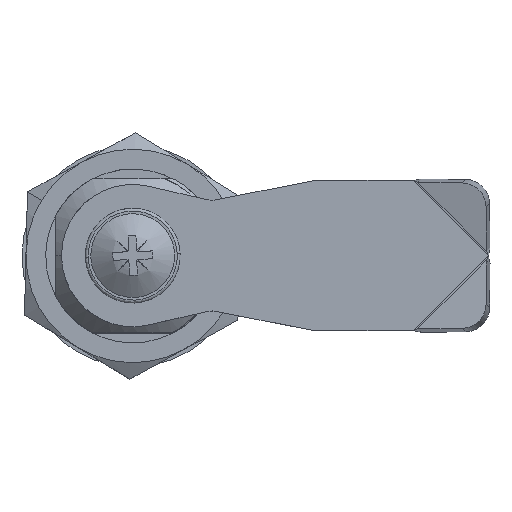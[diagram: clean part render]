
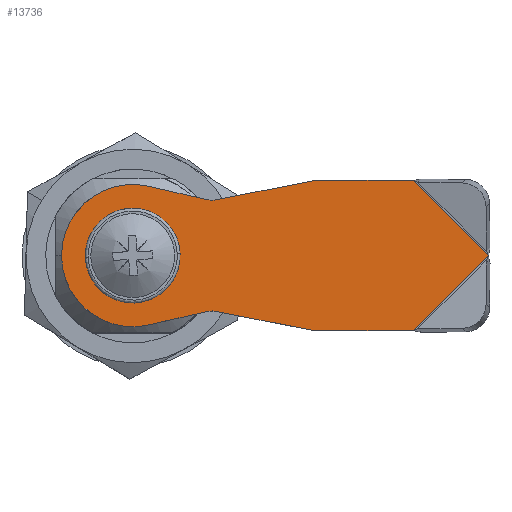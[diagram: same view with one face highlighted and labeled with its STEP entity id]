
A CAD part, top view. The second image highlights one B-rep face of the part: STEP entity #13736.
In plain terms, the highlighted planar face has unit normal (0, 0, 1).
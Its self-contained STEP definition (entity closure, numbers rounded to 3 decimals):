
#504 = AXIS2_PLACEMENT_3D ( 'NONE', #2250, #2259, #2260 ) ;
#957 = AXIS2_PLACEMENT_3D ( 'NONE', #9680, #9683, #9684 ) ;
#964 = AXIS2_PLACEMENT_3D ( 'NONE', #9780, #9783, #9784 ) ;
#966 = AXIS2_PLACEMENT_3D ( 'NONE', #9782, #9793, #9794 ) ;
#968 = AXIS2_PLACEMENT_3D ( 'NONE', #9807, #9812, #9813 ) ;
#1273 = CARTESIAN_POINT ( 'NONE',  ( 45., -0.005, 3. ) ) ;
#1998 = FACE_OUTER_BOUND ( 'NONE', #14514, .T. ) ;
#2011 = FACE_BOUND ( 'NONE', #14522, .T. ) ;
#2250 = CARTESIAN_POINT ( 'NONE',  ( 10., -9.5, 3. ) ) ;
#2251 = PLANE ( 'NONE',  #504 ) ;
#2259 = DIRECTION ( 'NONE',  ( 0., 0., -1. ) ) ;
#2260 = DIRECTION ( 'NONE',  ( -1., 0., 0. ) ) ;
#7223 = CARTESIAN_POINT ( 'NONE',  ( 10.481, -7.047, 3. ) ) ;
#7229 = CARTESIAN_POINT ( 'NONE',  ( 35.505, -9.5, 3. ) ) ;
#7234 = CARTESIAN_POINT ( 'NONE',  ( 9.44, -7.064, 3. ) ) ;
#7237 = CARTESIAN_POINT ( 'NONE',  ( 9.44, 7.064, 3. ) ) ;
#7238 = CARTESIAN_POINT ( 'NONE',  ( 10.481, 7.047, 3. ) ) ;
#7241 = CARTESIAN_POINT ( 'NONE',  ( 23., 9.5, 3. ) ) ;
#7249 = CARTESIAN_POINT ( 'NONE',  ( -9., 0., 3. ) ) ;
#7250 = CARTESIAN_POINT ( 'NONE',  ( 2.018, -8.771, 3. ) ) ;
#7260 = CARTESIAN_POINT ( 'NONE',  ( 45., 0.005, 3. ) ) ;
#7261 = CARTESIAN_POINT ( 'NONE',  ( 4., -4., 3. ) ) ;
#7262 = CARTESIAN_POINT ( 'NONE',  ( -4., 4., 3. ) ) ;
#7265 = CARTESIAN_POINT ( 'NONE',  ( 2.018, 8.771, 3. ) ) ;
#7267 = CARTESIAN_POINT ( 'NONE',  ( 23., -9.5, 3. ) ) ;
#7268 = CARTESIAN_POINT ( 'NONE',  ( -4., -4., 3. ) ) ;
#7269 = CARTESIAN_POINT ( 'NONE',  ( 4., 4., 3. ) ) ;
#9667 = CARTESIAN_POINT ( 'NONE',  ( 45., 6.5, 3. ) ) ;
#9679 = DIRECTION ( 'NONE',  ( 0., 1., 0. ) ) ;
#9680 = CARTESIAN_POINT ( 'NONE',  ( 0., 0., 3. ) ) ;
#9683 = DIRECTION ( 'NONE',  ( 0., 0., -1. ) ) ;
#9684 = DIRECTION ( 'NONE',  ( -1., 0., 0. ) ) ;
#9742 = CARTESIAN_POINT ( 'NONE',  ( 45., -0.005, 3. ) ) ;
#9747 = DIRECTION ( 'NONE',  ( -0.707, -0.707, 0. ) ) ;
#9752 = CARTESIAN_POINT ( 'NONE',  ( 35.505, 9.5, 3. ) ) ;
#9755 = DIRECTION ( 'NONE',  ( 0.707, -0.707, 0. ) ) ;
#9761 = CARTESIAN_POINT ( 'NONE',  ( 9.44, 7.064, 3. ) ) ;
#9780 = CARTESIAN_POINT ( 'NONE',  ( 10., -9.5, 3. ) ) ;
#9781 = DIRECTION ( 'NONE',  ( -0.975, 0.224, 0. ) ) ;
#9782 = CARTESIAN_POINT ( 'NONE',  ( 10., 9.5, 3. ) ) ;
#9783 = DIRECTION ( 'NONE',  ( 0., 0., 1. ) ) ;
#9784 = DIRECTION ( 'NONE',  ( -1., 0., 0. ) ) ;
#9790 = CARTESIAN_POINT ( 'NONE',  ( 10.481, -7.047, 3. ) ) ;
#9791 = DIRECTION ( 'NONE',  ( 0.981, -0.192, 0. ) ) ;
#9792 = CARTESIAN_POINT ( 'NONE',  ( -4., -4., 3. ) ) ;
#9793 = DIRECTION ( 'NONE',  ( 0., 0., 1. ) ) ;
#9794 = DIRECTION ( 'NONE',  ( -1., 0., 0. ) ) ;
#9799 = CARTESIAN_POINT ( 'NONE',  ( 42., 9.5, 3. ) ) ;
#9800 = DIRECTION ( 'NONE',  ( -1., 0., 0. ) ) ;
#9807 = CARTESIAN_POINT ( 'NONE',  ( 0., 0., 3. ) ) ;
#9808 = CARTESIAN_POINT ( 'NONE',  ( 10.481, 7.047, 3. ) ) ;
#9809 = DIRECTION ( 'NONE',  ( -0.981, -0.192, 0. ) ) ;
#9810 = CARTESIAN_POINT ( 'NONE',  ( 9.44, -7.064, 3. ) ) ;
#9811 = DIRECTION ( 'NONE',  ( 0.975, 0.224, 0. ) ) ;
#9812 = DIRECTION ( 'NONE',  ( 0., 0., -1. ) ) ;
#9813 = DIRECTION ( 'NONE',  ( -1., 0., 0. ) ) ;
#9814 = CARTESIAN_POINT ( 'NONE',  ( 4., 4., 3. ) ) ;
#9815 = DIRECTION ( 'NONE',  ( 0., 1., 0. ) ) ;
#9817 = DIRECTION ( 'NONE',  ( 0., -1., 0. ) ) ;
#9818 = CARTESIAN_POINT ( 'NONE',  ( 42., -9.5, 3. ) ) ;
#9819 = DIRECTION ( 'NONE',  ( 1., 0., 0. ) ) ;
#9820 = CARTESIAN_POINT ( 'NONE',  ( 4., -4., 3. ) ) ;
#9821 = DIRECTION ( 'NONE',  ( -1., 0., 0. ) ) ;
#9822 = CARTESIAN_POINT ( 'NONE',  ( -4., 4., 3. ) ) ;
#9823 = DIRECTION ( 'NONE',  ( 1., 0., 0. ) ) ;
#10079 = VECTOR ( 'NONE', #9679, 1000. ) ;
#10086 = LINE ( 'NONE', #9667, #10079 ) ;
#10091 = CIRCLE ( 'NONE', #957, 9. ) ;
#10116 = LINE ( 'NONE', #9742, #10125 ) ;
#10124 = LINE ( 'NONE', #9752, #10134 ) ;
#10125 = VECTOR ( 'NONE', #9747, 1000. ) ;
#10134 = VECTOR ( 'NONE', #9755, 1000. ) ;
#10145 = LINE ( 'NONE', #9761, #10149 ) ;
#10149 = VECTOR ( 'NONE', #9781, 1000. ) ;
#10150 = LINE ( 'NONE', #9790, #10152 ) ;
#10152 = VECTOR ( 'NONE', #9791, 1000. ) ;
#10153 = CIRCLE ( 'NONE', #964, 2.5 ) ;
#10154 = LINE ( 'NONE', #9799, #10158 ) ;
#10157 = VECTOR ( 'NONE', #9809, 1000. ) ;
#10158 = VECTOR ( 'NONE', #9800, 1000. ) ;
#10159 = CIRCLE ( 'NONE', #966, 2.5 ) ;
#10160 = LINE ( 'NONE', #9808, #10157 ) ;
#10161 = LINE ( 'NONE', #9814, #10172 ) ;
#10165 = VECTOR ( 'NONE', #9815, 1000. ) ;
#10167 = LINE ( 'NONE', #9810, #10168 ) ;
#10168 = VECTOR ( 'NONE', #9811, 1000. ) ;
#10170 = LINE ( 'NONE', #9792, #10165 ) ;
#10171 = CIRCLE ( 'NONE', #968, 9. ) ;
#10172 = VECTOR ( 'NONE', #9817, 1000. ) ;
#10174 = LINE ( 'NONE', #9818, #10175 ) ;
#10175 = VECTOR ( 'NONE', #9819, 1000. ) ;
#10176 = LINE ( 'NONE', #9820, #10177 ) ;
#10177 = VECTOR ( 'NONE', #9821, 1000. ) ;
#10178 = LINE ( 'NONE', #9822, #10179 ) ;
#10179 = VECTOR ( 'NONE', #9823, 1000. ) ;
#12488 = CARTESIAN_POINT ( 'NONE',  ( 35.505, 9.5, 3. ) ) ;
#13623 = VERTEX_POINT ( 'NONE', #1273 ) ;
#13736 = ADVANCED_FACE ( 'NONE', ( #1998, #2011 ), #2251, .F. ) ;
#14170 = VERTEX_POINT ( 'NONE', #7229 ) ;
#14175 = VERTEX_POINT ( 'NONE', #7223 ) ;
#14176 = VERTEX_POINT ( 'NONE', #7234 ) ;
#14179 = VERTEX_POINT ( 'NONE', #7237 ) ;
#14180 = VERTEX_POINT ( 'NONE', #7238 ) ;
#14183 = VERTEX_POINT ( 'NONE', #7241 ) ;
#14191 = VERTEX_POINT ( 'NONE', #7249 ) ;
#14192 = VERTEX_POINT ( 'NONE', #7250 ) ;
#14202 = VERTEX_POINT ( 'NONE', #7260 ) ;
#14514 = EDGE_LOOP ( 'NONE', ( #15739, #15740, #15741, #15742, #15743, #15744, #15745, #15746, #15747, #15748, #15749, #15750, #15751 ) ) ;
#14522 = EDGE_LOOP ( 'NONE', ( #15752, #15753, #15754, #15755 ) ) ;
#14529 = VERTEX_POINT ( 'NONE', #7265 ) ;
#14530 = VERTEX_POINT ( 'NONE', #7267 ) ;
#14531 = VERTEX_POINT ( 'NONE', #7261 ) ;
#14532 = VERTEX_POINT ( 'NONE', #7268 ) ;
#14533 = VERTEX_POINT ( 'NONE', #7262 ) ;
#14534 = VERTEX_POINT ( 'NONE', #7269 ) ;
#15739 = ORIENTED_EDGE ( 'NONE', *, *, #17972, .T. ) ;
#15740 = ORIENTED_EDGE ( 'NONE', *, *, #18003, .F. ) ;
#15741 = ORIENTED_EDGE ( 'NONE', *, *, #18021, .T. ) ;
#15742 = ORIENTED_EDGE ( 'NONE', *, *, #18024, .T. ) ;
#15743 = ORIENTED_EDGE ( 'NONE', *, *, #18018, .F. ) ;
#15744 = ORIENTED_EDGE ( 'NONE', *, *, #18013, .T. ) ;
#15745 = ORIENTED_EDGE ( 'NONE', *, *, #18026, .F. ) ;
#15746 = ORIENTED_EDGE ( 'NONE', *, *, #17974, .F. ) ;
#15747 = ORIENTED_EDGE ( 'NONE', *, *, #18025, .T. ) ;
#15748 = ORIENTED_EDGE ( 'NONE', *, *, #18014, .F. ) ;
#15749 = ORIENTED_EDGE ( 'NONE', *, *, #18017, .T. ) ;
#15750 = ORIENTED_EDGE ( 'NONE', *, *, #18029, .T. ) ;
#15751 = ORIENTED_EDGE ( 'NONE', *, *, #17999, .F. ) ;
#15752 = ORIENTED_EDGE ( 'NONE', *, *, #18030, .T. ) ;
#15753 = ORIENTED_EDGE ( 'NONE', *, *, #18027, .T. ) ;
#15754 = ORIENTED_EDGE ( 'NONE', *, *, #18031, .T. ) ;
#15755 = ORIENTED_EDGE ( 'NONE', *, *, #18028, .T. ) ;
#17972 = EDGE_CURVE ( 'NONE', #13623, #14202, #10086, .T. ) ;
#17974 = EDGE_CURVE ( 'NONE', #14192, #14191, #10091, .T. ) ;
#17999 = EDGE_CURVE ( 'NONE', #13623, #14170, #10116, .T. ) ;
#18003 = EDGE_CURVE ( 'NONE', #19182, #14202, #10124, .T. ) ;
#18013 = EDGE_CURVE ( 'NONE', #14179, #14529, #10145, .T. ) ;
#18014 = EDGE_CURVE ( 'NONE', #14175, #14176, #10153, .T. ) ;
#18017 = EDGE_CURVE ( 'NONE', #14175, #14530, #10150, .T. ) ;
#18018 = EDGE_CURVE ( 'NONE', #14179, #14180, #10159, .T. ) ;
#18021 = EDGE_CURVE ( 'NONE', #19182, #14183, #10154, .T. ) ;
#18024 = EDGE_CURVE ( 'NONE', #14183, #14180, #10160, .T. ) ;
#18025 = EDGE_CURVE ( 'NONE', #14192, #14176, #10167, .T. ) ;
#18026 = EDGE_CURVE ( 'NONE', #14191, #14529, #10171, .T. ) ;
#18027 = EDGE_CURVE ( 'NONE', #14532, #14533, #10170, .T. ) ;
#18028 = EDGE_CURVE ( 'NONE', #14534, #14531, #10161, .T. ) ;
#18029 = EDGE_CURVE ( 'NONE', #14530, #14170, #10174, .T. ) ;
#18030 = EDGE_CURVE ( 'NONE', #14531, #14532, #10176, .T. ) ;
#18031 = EDGE_CURVE ( 'NONE', #14533, #14534, #10178, .T. ) ;
#19182 = VERTEX_POINT ( 'NONE', #12488 ) ;
